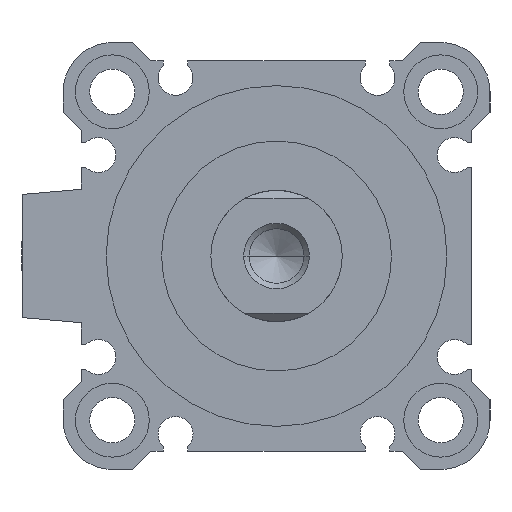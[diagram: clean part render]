
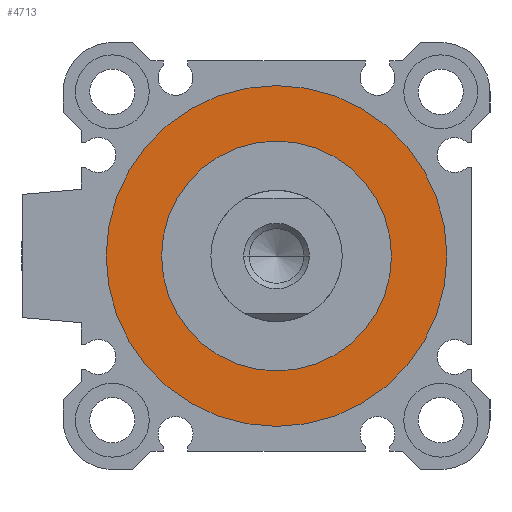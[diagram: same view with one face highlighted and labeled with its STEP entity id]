
A CAD part, left-side view. The second image highlights one B-rep face of the part: STEP entity #4713.
In plain terms, the highlighted planar face has unit normal (-1, 0, 0).
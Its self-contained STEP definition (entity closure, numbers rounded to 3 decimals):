
#18 = CARTESIAN_POINT ( 'NONE',  ( 3.3, 0., 14. ) ) ;
#63 = AXIS2_PLACEMENT_3D ( 'NONE', #3329, #598, #4920 ) ;
#183 = ORIENTED_EDGE ( 'NONE', *, *, #3963, .F. ) ;
#598 = DIRECTION ( 'NONE',  ( 1., 0., 0. ) ) ;
#1246 = CIRCLE ( 'NONE', #4992, 20.75 ) ;
#1295 = ORIENTED_EDGE ( 'NONE', *, *, #3229, .T. ) ;
#1521 = DIRECTION ( 'NONE',  ( 1., 0., 0. ) ) ;
#1543 = ORIENTED_EDGE ( 'NONE', *, *, #3686, .F. ) ;
#1547 = DIRECTION ( 'NONE',  ( 0., 1., 0. ) ) ;
#1764 = DIRECTION ( 'NONE',  ( 1., 0., 0. ) ) ;
#1875 = FACE_OUTER_BOUND ( 'NONE', #4445, .T. ) ;
#1924 = CARTESIAN_POINT ( 'NONE',  ( 3.3, 0., 0. ) ) ;
#1990 = VERTEX_POINT ( 'NONE', #18 ) ;
#2094 = CIRCLE ( 'NONE', #63, 14. ) ;
#2206 = EDGE_CURVE ( 'NONE', #4690, #1990, #2094, .T. ) ;
#2294 = DIRECTION ( 'NONE',  ( 0., 0., -1. ) ) ;
#2340 = CARTESIAN_POINT ( 'NONE',  ( 3.3, 0., -14. ) ) ;
#2566 = DIRECTION ( 'NONE',  ( 0., 0., -1. ) ) ;
#2641 = FACE_BOUND ( 'NONE', #4055, .T. ) ;
#3084 = VERTEX_POINT ( 'NONE', #4900 ) ;
#3100 = DIRECTION ( 'NONE',  ( 1., 0., 0. ) ) ;
#3211 = AXIS2_PLACEMENT_3D ( 'NONE', #4834, #1764, #2566 ) ;
#3229 = EDGE_CURVE ( 'NONE', #1990, #4690, #3887, .T. ) ;
#3329 = CARTESIAN_POINT ( 'NONE',  ( 3.3, 0., 0. ) ) ;
#3340 = ORIENTED_EDGE ( 'NONE', *, *, #2206, .T. ) ;
#3686 = EDGE_CURVE ( 'NONE', #3084, #4178, #1246, .T. ) ;
#3886 = CARTESIAN_POINT ( 'NONE',  ( 3.3, 0., 0. ) ) ;
#3887 = CIRCLE ( 'NONE', #4932, 14. ) ;
#3899 = CARTESIAN_POINT ( 'NONE',  ( 3.3, 0., 20.75 ) ) ;
#3963 = EDGE_CURVE ( 'NONE', #4178, #3084, #4340, .T. ) ;
#4055 = EDGE_LOOP ( 'NONE', ( #1295, #3340 ) ) ;
#4178 = VERTEX_POINT ( 'NONE', #3899 ) ;
#4340 = CIRCLE ( 'NONE', #3211, 20.75 ) ;
#4445 = EDGE_LOOP ( 'NONE', ( #183, #1543 ) ) ;
#4566 = DIRECTION ( 'NONE',  ( 1., 0., 0. ) ) ;
#4622 = CARTESIAN_POINT ( 'NONE',  ( 3.3, 0., 0. ) ) ;
#4642 = DIRECTION ( 'NONE',  ( 0., 0., -1. ) ) ;
#4690 = VERTEX_POINT ( 'NONE', #2340 ) ;
#4713 = ADVANCED_FACE ( 'NONE', ( #1875, #2641 ), #4999, .F. ) ;
#4818 = AXIS2_PLACEMENT_3D ( 'NONE', #3886, #4566, #1547 ) ;
#4834 = CARTESIAN_POINT ( 'NONE',  ( 3.3, 0., 0. ) ) ;
#4900 = CARTESIAN_POINT ( 'NONE',  ( 3.3, 0., -20.75 ) ) ;
#4920 = DIRECTION ( 'NONE',  ( 0., 0., -1. ) ) ;
#4932 = AXIS2_PLACEMENT_3D ( 'NONE', #4622, #1521, #2294 ) ;
#4992 = AXIS2_PLACEMENT_3D ( 'NONE', #1924, #3100, #4642 ) ;
#4999 = PLANE ( 'NONE',  #4818 ) ;
